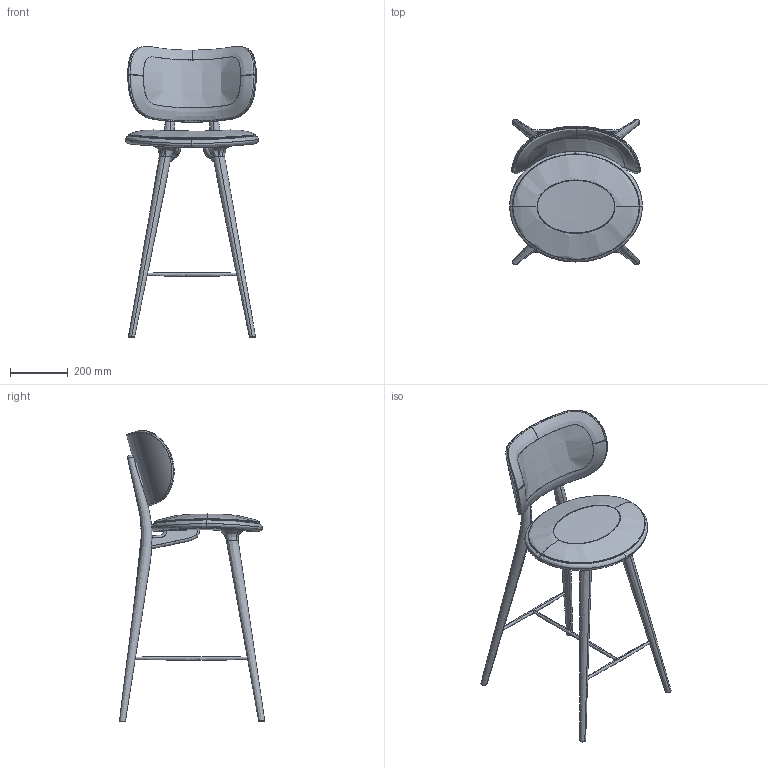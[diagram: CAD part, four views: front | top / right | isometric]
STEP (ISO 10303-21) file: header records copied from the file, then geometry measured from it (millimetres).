
FILE_DESCRIPTION(/* description */ (''),/* implementation_level */ '2;1');
FILE_NAME(/* name */ 'HIGHST~1',/* time_stamp */ '2021-03-26T10:08:11+01:00',/* author */ (''),/* organization */ (''),/* preprocessor_version */ 'ST-DEVELOPER v16.5',/* originating_system */ '',/* authorisation */ '');
FILE_SCHEMA (('AUTOMOTIVE_DESIGN'));
Length unit declared in the file: millimetre
Products named in the file (9): Document; Block 06; Block 07; Block 08; Block 09; Block 10; Block 11; Block 12; Block 13
Assembly tree (8 placements, depth 2):
  Document
    Block 06
    Block 07
    Block 08
    Block 09
    Block 10
    Block 11
    Block 12
    Block 13
Bounding box: 459.87 x 503.28 x 1007.37 mm (x, y, z)
Surface area: 1348947.3 mm2 (no closed solid volume)
Topology: 0 solids, 150 shells, 150 faces, 654 edges, 662 vertices
Faces by surface type: bspline 129, plane 21
Entity records: 35284 total; most frequent: CARTESIAN_POINT 31391, ORIENTED_EDGE 646, EDGE_CURVE 646, VERTEX_POINT 646, B_SPLINE_CURVE_WITH_KNOTS 418, PRESENTATION_LAYER_ASSIGNMENT 158, EDGE_LOOP 157, SHELL_BASED_SURFACE_MODEL 150
